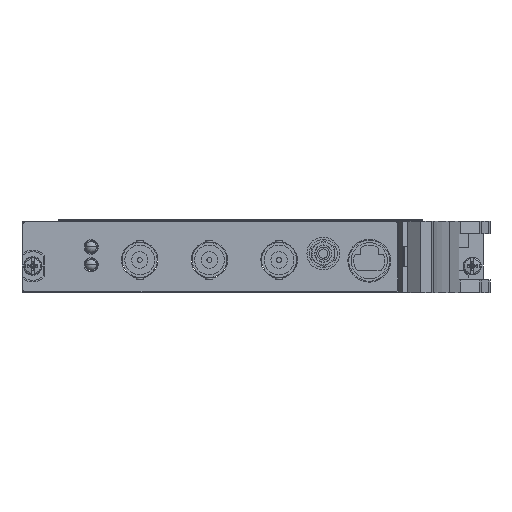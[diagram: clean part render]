
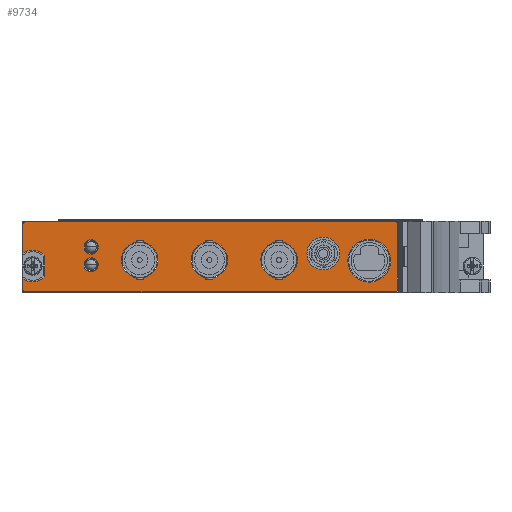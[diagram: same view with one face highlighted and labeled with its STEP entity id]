
A CAD part, left-side view. The second image highlights one B-rep face of the part: STEP entity #9734.
In plain terms, the highlighted planar face has unit normal (-1, 0, 0).
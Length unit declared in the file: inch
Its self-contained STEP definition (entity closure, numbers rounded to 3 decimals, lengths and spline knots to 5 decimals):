
#1881=CARTESIAN_POINT('',(-0.215,0.527,0.665));
#1882=DIRECTION('',(-1.,0.,0.));
#1883=DIRECTION('',(0.,0.,1.));
#1884=AXIS2_PLACEMENT_3D('',#1881,#1882,#1883);
#1886=DIRECTION('',(0.,1.,0.));
#1887=VECTOR('',#1886,4.07);
#1888=CARTESIAN_POINT('',(-0.215,-3.543,0.685));
#1889=LINE('',#1888,#1887);
#1890=CARTESIAN_POINT('',(-0.215,-3.543,0.665));
#1891=DIRECTION('',(-1.,0.,0.));
#1892=DIRECTION('',(0.,-1.,0.));
#1893=AXIS2_PLACEMENT_3D('',#1890,#1891,#1892);
#1895=DIRECTION('',(0.,0.,1.));
#1896=VECTOR('',#1895,0.728);
#1897=CARTESIAN_POINT('',(-0.215,-3.563,-0.063));
#1898=LINE('',#1897,#1896);
#1899=CARTESIAN_POINT('',(-0.215,-3.543,-0.063));
#1900=DIRECTION('',(-1.,0.,0.));
#1901=DIRECTION('',(0.,0.,-1.));
#1902=AXIS2_PLACEMENT_3D('',#1899,#1900,#1901);
#1904=DIRECTION('',(0.,-1.,0.));
#1905=VECTOR('',#1904,4.07);
#1906=CARTESIAN_POINT('',(-0.215,0.527,-0.083));
#1907=LINE('',#1906,#1905);
#1908=CARTESIAN_POINT('',(-0.215,0.527,-0.063));
#1909=DIRECTION('',(-1.,0.,0.));
#1910=DIRECTION('',(0.,1.,0.));
#1911=AXIS2_PLACEMENT_3D('',#1908,#1909,#1910);
#1913=DIRECTION('',(0.,0.,-1.));
#1914=VECTOR('',#1913,0.1263);
#1915=CARTESIAN_POINT('',(-0.215,0.547,0.0633));
#1916=LINE('',#1915,#1914);
#1917=CARTESIAN_POINT('',(-0.215,0.439,0.201));
#1918=DIRECTION('',(1.,0.,0.));
#1919=DIRECTION('',(0.,-0.76,-0.65));
#1920=AXIS2_PLACEMENT_3D('',#1917,#1918,#1919);
#1922=DIRECTION('',(0.,0.,-1.));
#1923=VECTOR('',#1922,0.22747);
#1924=CARTESIAN_POINT('',(-0.215,0.306,0.31474));
#1925=LINE('',#1924,#1923);
#1926=CARTESIAN_POINT('',(-0.215,0.439,0.201));
#1927=DIRECTION('',(1.,0.,0.));
#1928=DIRECTION('',(0.,0.617,0.787));
#1929=AXIS2_PLACEMENT_3D('',#1926,#1927,#1928);
#1931=DIRECTION('',(0.,0.,-1.));
#1932=VECTOR('',#1931,0.3263);
#1933=CARTESIAN_POINT('',(-0.215,0.547,0.665));
#1934=LINE('',#1933,#1932);
#1935=CARTESIAN_POINT('',(-0.215,-0.202,0.41));
#1936=DIRECTION('',(-1.,0.,0.));
#1937=DIRECTION('',(0.,0.,1.));
#1938=AXIS2_PLACEMENT_3D('',#1935,#1936,#1937);
#1940=CARTESIAN_POINT('',(-0.215,-0.202,0.41));
#1941=DIRECTION('',(-1.,0.,0.));
#1942=DIRECTION('',(0.,0.,-1.));
#1943=AXIS2_PLACEMENT_3D('',#1940,#1941,#1942);
#1945=CARTESIAN_POINT('',(-0.215,-3.255,0.259));
#1946=DIRECTION('',(1.,0.,0.));
#1947=DIRECTION('',(0.,0.,-1.));
#1948=AXIS2_PLACEMENT_3D('',#1945,#1946,#1947);
#1950=CARTESIAN_POINT('',(-0.215,-3.255,0.259));
#1951=DIRECTION('',(1.,0.,0.));
#1952=DIRECTION('',(0.,0.,1.));
#1953=AXIS2_PLACEMENT_3D('',#1950,#1951,#1952);
#1955=CARTESIAN_POINT('',(-0.215,-0.202,0.215));
#1956=DIRECTION('',(-1.,0.,0.));
#1957=DIRECTION('',(0.,0.,1.));
#1958=AXIS2_PLACEMENT_3D('',#1955,#1956,#1957);
#1960=CARTESIAN_POINT('',(-0.215,-0.202,0.215));
#1961=DIRECTION('',(-1.,0.,0.));
#1962=DIRECTION('',(0.,0.,-1.));
#1963=AXIS2_PLACEMENT_3D('',#1960,#1961,#1962);
#1965=CARTESIAN_POINT('',(-0.215,-0.735,0.268));
#1966=DIRECTION('',(-1.,0.,0.));
#1967=DIRECTION('',(0.,0.,1.));
#1968=AXIS2_PLACEMENT_3D('',#1965,#1966,#1967);
#1970=CARTESIAN_POINT('',(-0.215,-0.735,0.268));
#1971=DIRECTION('',(-1.,0.,0.));
#1972=DIRECTION('',(0.,0.,-1.));
#1973=AXIS2_PLACEMENT_3D('',#1970,#1971,#1972);
#1975=CARTESIAN_POINT('',(-0.215,-1.5,0.268));
#1976=DIRECTION('',(-1.,0.,0.));
#1977=DIRECTION('',(0.,0.,1.));
#1978=AXIS2_PLACEMENT_3D('',#1975,#1976,#1977);
#1980=CARTESIAN_POINT('',(-0.215,-1.5,0.268));
#1981=DIRECTION('',(-1.,0.,0.));
#1982=DIRECTION('',(0.,0.,-1.));
#1983=AXIS2_PLACEMENT_3D('',#1980,#1981,#1982);
#1985=CARTESIAN_POINT('',(-0.215,-2.265,0.268));
#1986=DIRECTION('',(-1.,0.,0.));
#1987=DIRECTION('',(0.,0.,1.));
#1988=AXIS2_PLACEMENT_3D('',#1985,#1986,#1987);
#1990=CARTESIAN_POINT('',(-0.215,-2.265,0.268));
#1991=DIRECTION('',(-1.,0.,0.));
#1992=DIRECTION('',(0.,0.,-1.));
#1993=AXIS2_PLACEMENT_3D('',#1990,#1991,#1992);
#1995=CARTESIAN_POINT('',(-0.215,-2.751,0.33776));
#1996=DIRECTION('',(-1.,0.,0.));
#1997=DIRECTION('',(0.,1.,0.));
#1998=AXIS2_PLACEMENT_3D('',#1995,#1996,#1997);
#2000=CARTESIAN_POINT('',(-0.215,-2.751,0.33776));
#2001=DIRECTION('',(-1.,0.,0.));
#2002=DIRECTION('',(0.,-1.,0.));
#2003=AXIS2_PLACEMENT_3D('',#2000,#2001,#2002);
#6330=CARTESIAN_POINT('',(-0.215,0.527,0.685));
#6331=CARTESIAN_POINT('',(-0.215,0.547,0.665));
#6332=VERTEX_POINT('',#6330);
#6333=VERTEX_POINT('',#6331);
#6334=CARTESIAN_POINT('',(-0.215,0.547,0.3387));
#6335=VERTEX_POINT('',#6334);
#6336=CARTESIAN_POINT('',(-0.215,0.306,0.31474));
#6337=VERTEX_POINT('',#6336);
#6338=CARTESIAN_POINT('',(-0.215,0.306,0.08726));
#6339=VERTEX_POINT('',#6338);
#6340=CARTESIAN_POINT('',(-0.215,0.547,0.0633));
#6341=VERTEX_POINT('',#6340);
#6342=CARTESIAN_POINT('',(-0.215,0.547,-0.063));
#6343=VERTEX_POINT('',#6342);
#6344=CARTESIAN_POINT('',(-0.215,0.527,-0.083));
#6345=VERTEX_POINT('',#6344);
#6346=CARTESIAN_POINT('',(-0.215,-3.543,-0.083));
#6347=VERTEX_POINT('',#6346);
#6348=CARTESIAN_POINT('',(-0.215,-3.563,-0.063));
#6349=VERTEX_POINT('',#6348);
#6350=CARTESIAN_POINT('',(-0.215,-3.563,0.665));
#6351=VERTEX_POINT('',#6350);
#6352=CARTESIAN_POINT('',(-0.215,-3.543,0.685));
#6353=VERTEX_POINT('',#6352);
#6354=CARTESIAN_POINT('',(-0.215,-0.202,0.4885));
#6355=CARTESIAN_POINT('',(-0.215,-0.202,0.3315));
#6356=VERTEX_POINT('',#6354);
#6357=VERTEX_POINT('',#6355);
#6358=CARTESIAN_POINT('',(-0.215,-3.255,0.024));
#6359=CARTESIAN_POINT('',(-0.215,-3.255,0.494));
#6360=VERTEX_POINT('',#6358);
#6361=VERTEX_POINT('',#6359);
#6374=CARTESIAN_POINT('',(-0.215,-0.202,0.2935));
#6375=CARTESIAN_POINT('',(-0.215,-0.202,0.1365));
#6376=VERTEX_POINT('',#6374);
#6377=VERTEX_POINT('',#6375);
#6378=CARTESIAN_POINT('',(-0.215,-0.735,0.468));
#6379=CARTESIAN_POINT('',(-0.215,-0.735,0.068));
#6380=VERTEX_POINT('',#6378);
#6381=VERTEX_POINT('',#6379);
#6382=CARTESIAN_POINT('',(-0.215,-1.5,0.468));
#6383=CARTESIAN_POINT('',(-0.215,-1.5,0.068));
#6384=VERTEX_POINT('',#6382);
#6385=VERTEX_POINT('',#6383);
#6386=CARTESIAN_POINT('',(-0.215,-2.265,0.468));
#6387=CARTESIAN_POINT('',(-0.215,-2.265,0.068));
#6388=VERTEX_POINT('',#6386);
#6389=VERTEX_POINT('',#6387);
#6390=CARTESIAN_POINT('',(-0.215,-2.571,0.33776));
#6391=CARTESIAN_POINT('',(-0.215,-2.931,0.33776));
#6392=VERTEX_POINT('',#6390);
#6393=VERTEX_POINT('',#6391);
#9673=CARTESIAN_POINT('',(-0.215,0.439,0.201));
#9674=DIRECTION('',(-1.,0.,0.));
#9675=DIRECTION('',(0.,0.,1.));
#9676=AXIS2_PLACEMENT_3D('',#9673,#9674,#9675);
#9677=PLANE('',#9676);
#9678=ORIENTED_EDGE('',*,*,#9654,.F.);
#9679=ORIENTED_EDGE('',*,*,#9667,.F.);
#9680=ORIENTED_EDGE('',*,*,#9511,.F.);
#9681=ORIENTED_EDGE('',*,*,#9527,.F.);
#9682=ORIENTED_EDGE('',*,*,#9541,.F.);
#9683=ORIENTED_EDGE('',*,*,#9555,.F.);
#9684=ORIENTED_EDGE('',*,*,#9569,.F.);
#9685=ORIENTED_EDGE('',*,*,#9583,.F.);
#9686=ORIENTED_EDGE('',*,*,#9597,.F.);
#9687=ORIENTED_EDGE('',*,*,#9611,.F.);
#9688=ORIENTED_EDGE('',*,*,#9625,.F.);
#9689=ORIENTED_EDGE('',*,*,#9639,.F.);
#9690=EDGE_LOOP('',(#9678,#9679,#9680,#9681,#9682,#9683,#9684,#9685,#9686,#9687,
#9688,#9689));
#9691=FACE_OUTER_BOUND('',#9690,.F.);
#9693=ORIENTED_EDGE('',*,*,#9692,.T.);
#9695=ORIENTED_EDGE('',*,*,#9694,.T.);
#9696=EDGE_LOOP('',(#9693,#9695));
#9697=FACE_BOUND('',#9696,.F.);
#9699=ORIENTED_EDGE('',*,*,#9698,.F.);
#9701=ORIENTED_EDGE('',*,*,#9700,.F.);
#9702=EDGE_LOOP('',(#9699,#9701));
#9703=FACE_BOUND('',#9702,.F.);
#9705=ORIENTED_EDGE('',*,*,#9704,.T.);
#9707=ORIENTED_EDGE('',*,*,#9706,.T.);
#9708=EDGE_LOOP('',(#9705,#9707));
#9709=FACE_BOUND('',#9708,.F.);
#9711=ORIENTED_EDGE('',*,*,#9710,.T.);
#9713=ORIENTED_EDGE('',*,*,#9712,.T.);
#9714=EDGE_LOOP('',(#9711,#9713));
#9715=FACE_BOUND('',#9714,.F.);
#9717=ORIENTED_EDGE('',*,*,#9716,.T.);
#9719=ORIENTED_EDGE('',*,*,#9718,.T.);
#9720=EDGE_LOOP('',(#9717,#9719));
#9721=FACE_BOUND('',#9720,.F.);
#9723=ORIENTED_EDGE('',*,*,#9722,.T.);
#9725=ORIENTED_EDGE('',*,*,#9724,.T.);
#9726=EDGE_LOOP('',(#9723,#9725));
#9727=FACE_BOUND('',#9726,.F.);
#9729=ORIENTED_EDGE('',*,*,#9728,.T.);
#9731=ORIENTED_EDGE('',*,*,#9730,.T.);
#9732=EDGE_LOOP('',(#9729,#9731));
#9733=FACE_BOUND('',#9732,.F.);
#9734=ADVANCED_FACE('',(#9691,#9697,#9703,#9709,#9715,#9721,#9727,#9733),#9677,
.T.);
#1885=CIRCLE('',#1884,0.02);
#1894=CIRCLE('',#1893,0.02);
#1903=CIRCLE('',#1902,0.02);
#1912=CIRCLE('',#1911,0.02);
#1921=CIRCLE('',#1920,0.175);
#1930=CIRCLE('',#1929,0.175);
#1939=CIRCLE('',#1938,0.0785);
#1944=CIRCLE('',#1943,0.0785);
#1949=CIRCLE('',#1948,0.235);
#1954=CIRCLE('',#1953,0.235);
#1959=CIRCLE('',#1958,0.0785);
#1964=CIRCLE('',#1963,0.0785);
#1969=CIRCLE('',#1968,0.2);
#1974=CIRCLE('',#1973,0.2);
#1979=CIRCLE('',#1978,0.2);
#1984=CIRCLE('',#1983,0.2);
#1989=CIRCLE('',#1988,0.2);
#1994=CIRCLE('',#1993,0.2);
#1999=CIRCLE('',#1998,0.18);
#2004=CIRCLE('',#2003,0.18);
#9511=EDGE_CURVE('',#6351,#6353,#1894,.T.);
#9527=EDGE_CURVE('',#6349,#6351,#1898,.T.);
#9541=EDGE_CURVE('',#6347,#6349,#1903,.T.);
#9555=EDGE_CURVE('',#6345,#6347,#1907,.T.);
#9569=EDGE_CURVE('',#6343,#6345,#1912,.T.);
#9583=EDGE_CURVE('',#6341,#6343,#1916,.T.);
#9597=EDGE_CURVE('',#6339,#6341,#1921,.T.);
#9611=EDGE_CURVE('',#6337,#6339,#1925,.T.);
#9625=EDGE_CURVE('',#6335,#6337,#1930,.T.);
#9639=EDGE_CURVE('',#6333,#6335,#1934,.T.);
#9654=EDGE_CURVE('',#6332,#6333,#1885,.T.);
#9667=EDGE_CURVE('',#6353,#6332,#1889,.T.);
#9692=EDGE_CURVE('',#6356,#6357,#1939,.T.);
#9694=EDGE_CURVE('',#6357,#6356,#1944,.T.);
#9698=EDGE_CURVE('',#6360,#6361,#1949,.T.);
#9700=EDGE_CURVE('',#6361,#6360,#1954,.T.);
#9704=EDGE_CURVE('',#6376,#6377,#1959,.T.);
#9706=EDGE_CURVE('',#6377,#6376,#1964,.T.);
#9710=EDGE_CURVE('',#6380,#6381,#1969,.T.);
#9712=EDGE_CURVE('',#6381,#6380,#1974,.T.);
#9716=EDGE_CURVE('',#6384,#6385,#1979,.T.);
#9718=EDGE_CURVE('',#6385,#6384,#1984,.T.);
#9722=EDGE_CURVE('',#6388,#6389,#1989,.T.);
#9724=EDGE_CURVE('',#6389,#6388,#1994,.T.);
#9728=EDGE_CURVE('',#6392,#6393,#1999,.T.);
#9730=EDGE_CURVE('',#6393,#6392,#2004,.T.);
